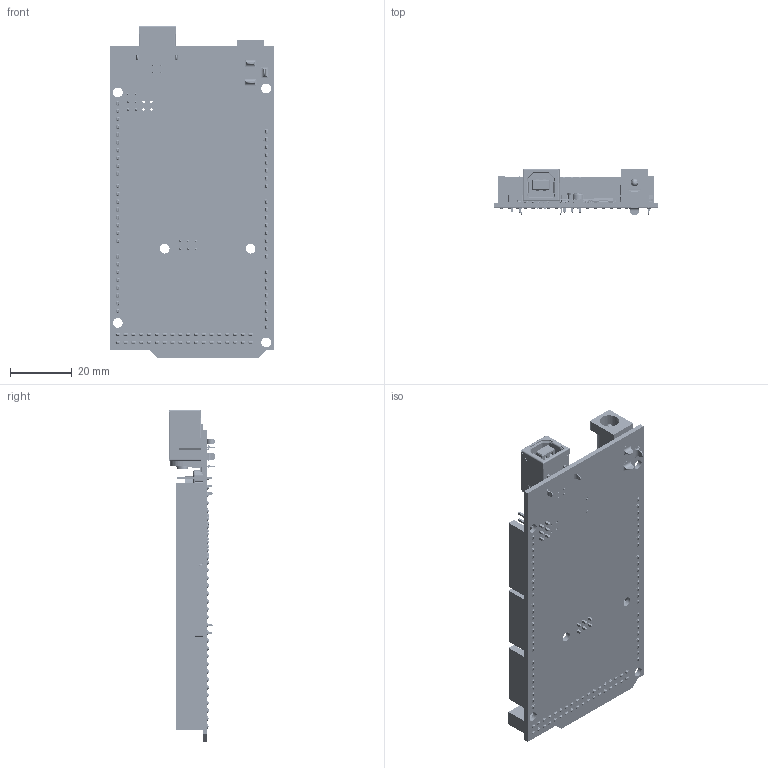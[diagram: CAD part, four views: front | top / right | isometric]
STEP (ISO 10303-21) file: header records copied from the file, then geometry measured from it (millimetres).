
FILE_DESCRIPTION (( 'STEP AP214' ), '1' );
FILE_NAME ('User Library-arduino_MEGA2650-1.STEP', '2020-08-31T08:27:50', ( '' ), ( '' ), 'SwSTEP 2.0', 'SolidWorks 2020', '' );
FILE_SCHEMA (( 'AUTOMOTIVE_DESIGN' ));
Length unit declared in the file: millimetre
Products named in the file (34): reg; PADS001; atmega2650-16AU; cd1206 diode; atmega16u2; ssot3; power jack; USB core; usb top contact; lmv358; 603 resistor; MEGAboard; 2pin_header__02; mf-msmf050-2; User Library-arduino_MEGA2650-1; led; lp2985dgkr; 8 PORT HEADER; m7 diode; blm21; crystal; 16mhz crystal - measured; RESET CORE; RESET; 103 RESISTOR PACK; USB SHELL; usb btm contact; 18 X 2 ROW HEADER; 47uf CAP Dcase; 10 PORT HEADER; 603 cap on pad; MLC0603; 102 RESISTOR PACK; 220 RESISTOR PACK
Assembly tree (67 placements, depth 2):
  User Library-arduino_MEGA2650-1
    MEGAboard
    47uf CAP Dcase  x2
    USB SHELL
    USB core
    usb top contact  x2
    usb btm contact  x2
    power jack
    crystal
    2pin_header__02  x6
    reg
    led  x4
    atmega16u2
    8 PORT HEADER  x5
    10 PORT HEADER
    102 RESISTOR PACK  x2
    103 RESISTOR PACK  x2
    220 RESISTOR PACK
    16mhz crystal - measured
    PADS001
    603 cap on pad  x15
    ssot3
    mf-msmf050-2
    lmv358
    lp2985dgkr
    cd1206 diode  x2
    603 resistor  x2
    blm21
    m7 diode
    MLC0603  x2
    RESET CORE
    RESET
    18 X 2 ROW HEADER
    atmega2650-16AU
Bounding box: 53.34 x 15.25 x 107.95 mm (x, y, z)
Volume: 16151.1 mm3; surface area: 26448.6 mm2
Topology: 143 solids, 143 shells, 13927 faces, 37085 edges, 24009 vertices
Faces by surface type: plane 7635, cylinder 3699, bspline 2252, torus 335, cone 6
Entity records: 406199 total; most frequent: CARTESIAN_POINT 128100, ORIENTED_EDGE 57450, DIRECTION 41808, EDGE_CURVE 28725, VERTEX_POINT 18735, LINE 16414, VECTOR 16414, AXIS2_PLACEMENT_3D 12697
